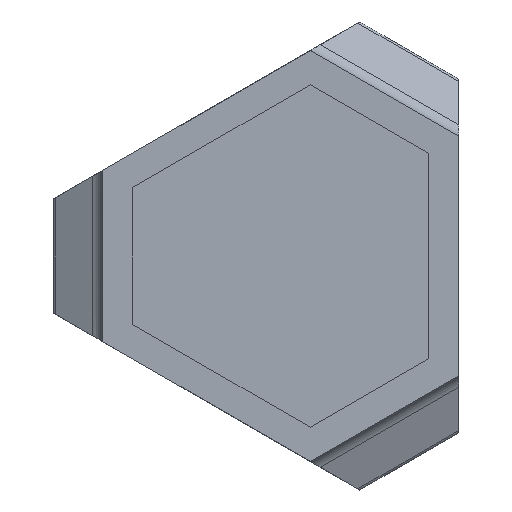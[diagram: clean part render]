
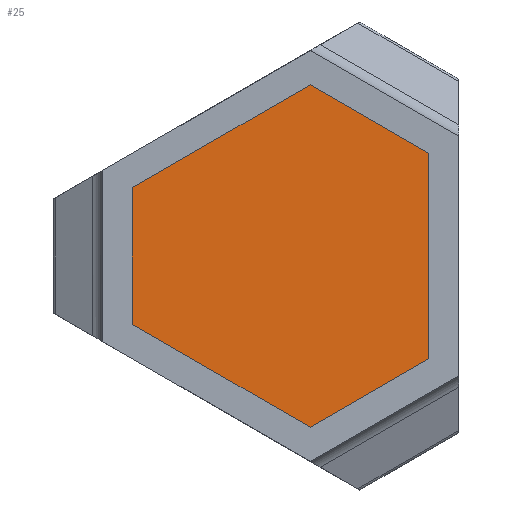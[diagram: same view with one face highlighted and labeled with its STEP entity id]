
A CAD part, front view. The second image highlights one B-rep face of the part: STEP entity #25.
In plain terms, the highlighted planar face has unit normal (0, -1, 0).
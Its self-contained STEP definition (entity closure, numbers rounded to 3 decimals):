
#25 = ADVANCED_FACE ( 'NONE', ( #920 ), #368, .T. ) ;
#31 = DIRECTION ( 'NONE',  ( 0., -1., 0. ) ) ;
#55 = EDGE_LOOP ( 'NONE', ( #354, #1185, #1178, #213, #225, #468 ) ) ;
#64 = DIRECTION ( 'NONE',  ( 0.866, 0., 0.5 ) ) ;
#104 = EDGE_CURVE ( 'NONE', #983, #885, #121, .T. ) ;
#121 = LINE ( 'NONE', #480, #230 ) ;
#145 = EDGE_CURVE ( 'NONE', #250, #220, #879, .T. ) ;
#159 = LINE ( 'NONE', #981, #438 ) ;
#160 = EDGE_CURVE ( 'NONE', #885, #887, #159, .T. ) ;
#162 = LINE ( 'NONE', #267, #392 ) ;
#179 = LINE ( 'NONE', #296, #914 ) ;
#183 = DIRECTION ( 'NONE',  ( 1., 0., 0. ) ) ;
#188 = CARTESIAN_POINT ( 'NONE',  ( 7., -8., -5.196 ) ) ;
#208 = CARTESIAN_POINT ( 'NONE',  ( 7., -8., 5.196 ) ) ;
#213 = ORIENTED_EDGE ( 'NONE', *, *, #160, .T. ) ;
#220 = VERTEX_POINT ( 'NONE', #684 ) ;
#225 = ORIENTED_EDGE ( 'NONE', *, *, #412, .T. ) ;
#230 = VECTOR ( 'NONE', #759, 1000. ) ;
#250 = VERTEX_POINT ( 'NONE', #943 ) ;
#259 = DIRECTION ( 'NONE',  ( 0., 0., 1. ) ) ;
#267 = CARTESIAN_POINT ( 'NONE',  ( 7., -8., 5.196 ) ) ;
#296 = CARTESIAN_POINT ( 'NONE',  ( -8., -8., 3.464 ) ) ;
#347 = AXIS2_PLACEMENT_3D ( 'NONE', #462, #31, #183 ) ;
#354 = ORIENTED_EDGE ( 'NONE', *, *, #145, .T. ) ;
#368 = PLANE ( 'NONE',  #347 ) ;
#392 = VECTOR ( 'NONE', #989, 1000. ) ;
#412 = EDGE_CURVE ( 'NONE', #887, #1150, #461, .T. ) ;
#428 = CARTESIAN_POINT ( 'NONE',  ( 1., -8., -8.66 ) ) ;
#438 = VECTOR ( 'NONE', #64, 1000. ) ;
#461 = LINE ( 'NONE', #188, #1118 ) ;
#462 = CARTESIAN_POINT ( 'NONE',  ( 0., -8., 0. ) ) ;
#468 = ORIENTED_EDGE ( 'NONE', *, *, #784, .T. ) ;
#480 = CARTESIAN_POINT ( 'NONE',  ( -8., -8., -3.464 ) ) ;
#516 = CARTESIAN_POINT ( 'NONE',  ( 1., -8., 8.66 ) ) ;
#531 = VECTOR ( 'NONE', #610, 1000. ) ;
#610 = DIRECTION ( 'NONE',  ( -0.866, 0., -0.5 ) ) ;
#660 = EDGE_CURVE ( 'NONE', #220, #983, #179, .T. ) ;
#663 = DIRECTION ( 'NONE',  ( 0., 0., -1. ) ) ;
#684 = CARTESIAN_POINT ( 'NONE',  ( -8., -8., 3.464 ) ) ;
#699 = CARTESIAN_POINT ( 'NONE',  ( 7., -8., -5.196 ) ) ;
#759 = DIRECTION ( 'NONE',  ( 0.866, 0., -0.5 ) ) ;
#784 = EDGE_CURVE ( 'NONE', #1150, #250, #162, .T. ) ;
#832 = CARTESIAN_POINT ( 'NONE',  ( -8., -8., -3.464 ) ) ;
#879 = LINE ( 'NONE', #516, #531 ) ;
#885 = VERTEX_POINT ( 'NONE', #428 ) ;
#887 = VERTEX_POINT ( 'NONE', #699 ) ;
#914 = VECTOR ( 'NONE', #663, 1000. ) ;
#920 = FACE_OUTER_BOUND ( 'NONE', #55, .T. ) ;
#943 = CARTESIAN_POINT ( 'NONE',  ( 1., -8., 8.66 ) ) ;
#981 = CARTESIAN_POINT ( 'NONE',  ( 1., -8., -8.66 ) ) ;
#983 = VERTEX_POINT ( 'NONE', #832 ) ;
#989 = DIRECTION ( 'NONE',  ( -0.866, 0., 0.5 ) ) ;
#1118 = VECTOR ( 'NONE', #259, 1000. ) ;
#1150 = VERTEX_POINT ( 'NONE', #208 ) ;
#1178 = ORIENTED_EDGE ( 'NONE', *, *, #104, .T. ) ;
#1185 = ORIENTED_EDGE ( 'NONE', *, *, #660, .T. ) ;
